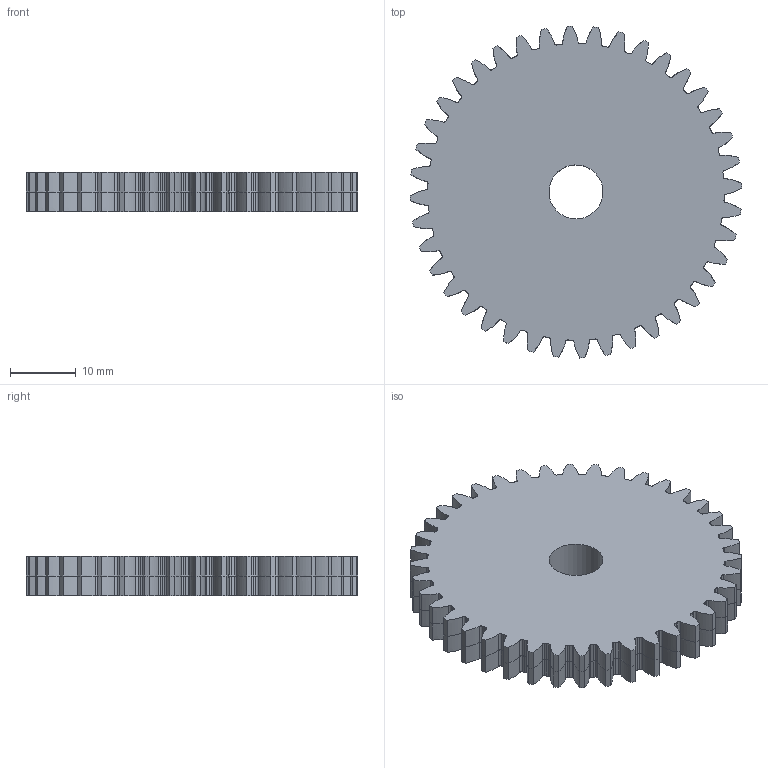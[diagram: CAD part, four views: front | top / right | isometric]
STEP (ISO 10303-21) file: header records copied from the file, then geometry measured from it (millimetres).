
FILE_DESCRIPTION(('Open CASCADE Model'),'2;1');
FILE_NAME('TH_output_gear','2026-11-05T16:12:16',('Author'),( 'Open CASCADE'),'Open CASCADE STEP processor 7.9','build123d', 'Unknown');
FILE_SCHEMA(('AUTOMOTIVE_DESIGN { 1 0 10303 214 1 1 1 1 }'));
Length unit declared in the file: millimetre
Products named in the file (2): TH_output_gear
Assembly tree (1 placements, depth 2):
  TH_output_gear
    TH_output_gear
Bounding box: 50.39 x 50.39 x 6 mm (x, y, z)
Volume: 10382.3 mm3; surface area: 5413.9 mm2
Topology: 1 solids, 1 shells, 563 faces, 1403 edges, 842 vertices
Faces by surface type: cylinder 401, extrusion 160, plane 2
Full cylindrical faces by diameter (mm): 8.2 x1
Entity records: 48114 total; most frequent: CARTESIAN_POINT 19616, DIRECTION 5381, VECTOR 2965, ORIENTED_EDGE 2806, PCURVE 2806, DEFINITIONAL_REPRESENTATION 2806, LINE 2805, EDGE_CURVE 1403
